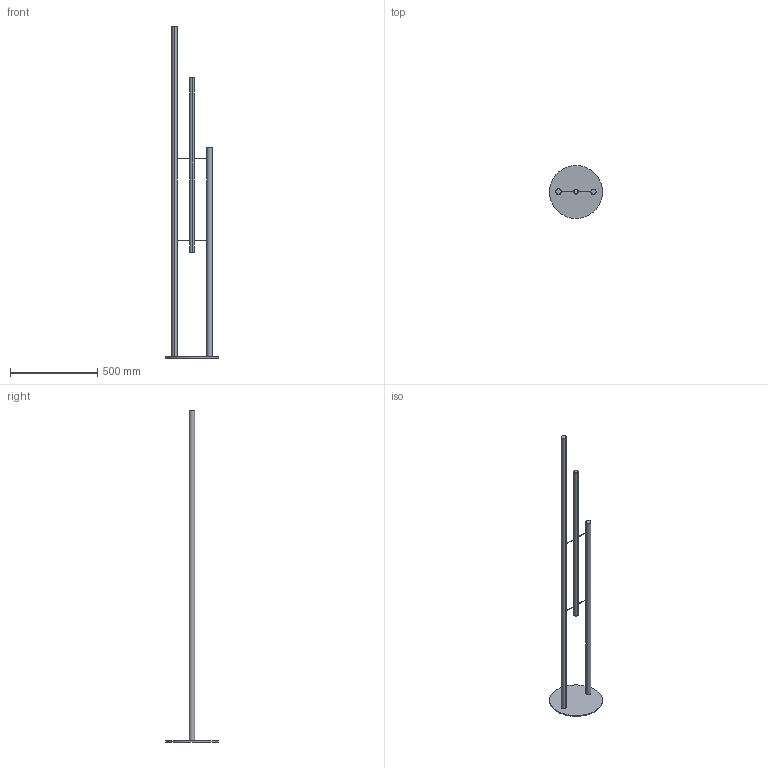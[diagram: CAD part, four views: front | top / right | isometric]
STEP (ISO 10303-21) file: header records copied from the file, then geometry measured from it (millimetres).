
FILE_DESCRIPTION(/* description */ (''),/* implementation_level */ '2;1');
FILE_NAME(/* name */ 'MA_TA-KE_2_240-120V-2022',/* time_stamp */ '2022-08-25T15:14:05+01:00',/* author */ (''),/* organization */ (''),/* preprocessor_version */ 'ST-DEVELOPER v16.5',/* originating_system */ 'Rhino 7.21',/* authorisation */ '');
FILE_SCHEMA (('CONFIG_CONTROL_DESIGN'));
Length unit declared in the file: millimetre
Products named in the file (1): Document
Bounding box: 303.44 x 303.3 x 1900 mm (x, y, z)
Volume: 3239279.8 mm3; surface area: 532778 mm2
Topology: 1 solids, 1 shells, 24 faces, 58 edges, 38 vertices
Faces by surface type: cylinder 16, plane 6, bspline 2
Entity records: 1218 total; most frequent: CARTESIAN_POINT 740, ORIENTED_EDGE 116, EDGE_CURVE 58, VERTEX_POINT 38, EDGE_LOOP 32, DIRECTION 26, ADVANCED_FACE 24, FACE_OUTER_BOUND 24
